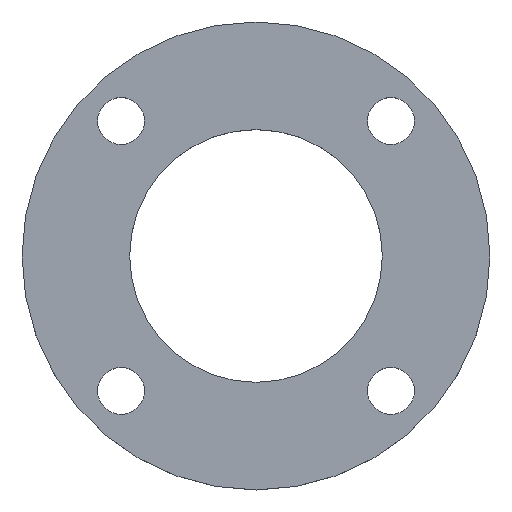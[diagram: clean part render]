
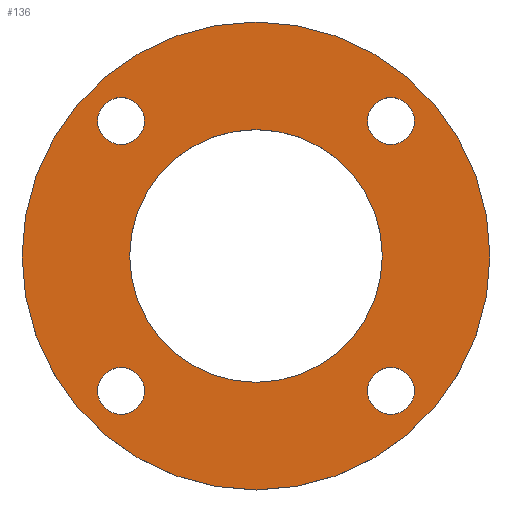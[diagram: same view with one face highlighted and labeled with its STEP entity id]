
A CAD part, top view. The second image highlights one B-rep face of the part: STEP entity #136.
In plain terms, the highlighted planar face has unit normal (0, 0, 1).
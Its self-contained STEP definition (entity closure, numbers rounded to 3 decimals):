
#14=PLANE($,#159);
#27=FACE_BOUND($,#57,.T.);
#28=FACE_BOUND($,#58,.T.);
#29=FACE_BOUND($,#59,.T.);
#30=FACE_BOUND($,#60,.T.);
#31=FACE_BOUND($,#61,.T.);
#32=FACE_BOUND($,#62,.T.);
#57=EDGE_LOOP($,(#117));
#58=EDGE_LOOP($,(#118));
#59=EDGE_LOOP($,(#119));
#60=EDGE_LOOP($,(#120));
#61=EDGE_LOOP($,(#121));
#62=EDGE_LOOP($,(#122));
#64=CIRCLE($,#142,9.5);
#66=CIRCLE($,#145,9.5);
#68=CIRCLE($,#148,9.5);
#70=CIRCLE($,#151,9.5);
#71=CIRCLE($,#153,51.3);
#73=CIRCLE($,#156,95.);
#76=VERTEX_POINT($,#206);
#78=VERTEX_POINT($,#211);
#80=VERTEX_POINT($,#216);
#82=VERTEX_POINT($,#221);
#83=VERTEX_POINT($,#224);
#85=VERTEX_POINT($,#229);
#88=EDGE_CURVE($,#76,#76,#64,.T.);
#90=EDGE_CURVE($,#78,#78,#66,.T.);
#92=EDGE_CURVE($,#80,#80,#68,.T.);
#94=EDGE_CURVE($,#82,#82,#70,.T.);
#95=EDGE_CURVE($,#83,#83,#71,.T.);
#97=EDGE_CURVE($,#85,#85,#73,.T.);
#117=ORIENTED_EDGE($,*,*,#88,.T.);
#118=ORIENTED_EDGE($,*,*,#90,.T.);
#119=ORIENTED_EDGE($,*,*,#92,.T.);
#120=ORIENTED_EDGE($,*,*,#94,.T.);
#121=ORIENTED_EDGE($,*,*,#95,.T.);
#122=ORIENTED_EDGE($,*,*,#97,.T.);
#136=ADVANCED_FACE($,(#27,#28,#29,#30,#31,#32),#14,.T.);
#142=AXIS2_PLACEMENT_3D($,#207,#166,#167);
#145=AXIS2_PLACEMENT_3D($,#212,#172,#173);
#148=AXIS2_PLACEMENT_3D($,#217,#178,#179);
#151=AXIS2_PLACEMENT_3D($,#222,#184,#185);
#153=AXIS2_PLACEMENT_3D($,#225,#188,#189);
#156=AXIS2_PLACEMENT_3D($,#230,#194,#195);
#159=AXIS2_PLACEMENT_3D($,#234,#200,#201);
#166=DIRECTION('center_axis',(0.,0.,-1.));
#167=DIRECTION('ref_axis',(0.,1.,0.));
#172=DIRECTION('center_axis',(0.,0.,-1.));
#173=DIRECTION('ref_axis',(1.,0.,0.));
#178=DIRECTION('center_axis',(0.,0.,-1.));
#179=DIRECTION('ref_axis',(0.,-1.,0.));
#184=DIRECTION('center_axis',(0.,0.,-1.));
#185=DIRECTION('ref_axis',(-1.,0.,0.));
#188=DIRECTION('center_axis',(0.,0.,-1.));
#189=DIRECTION('ref_axis',(-1.,0.,0.));
#194=DIRECTION('center_axis',(0.,0.,1.));
#195=DIRECTION('ref_axis',(-1.,0.,0.));
#200=DIRECTION('center_axis',(0.,0.,1.));
#201=DIRECTION('ref_axis',(1.,0.,0.));
#206=CARTESIAN_POINT('',(54.801,45.301,14.));
#207=CARTESIAN_POINT('Origin',(54.801,54.801,14.));
#211=CARTESIAN_POINT('',(45.301,-54.801,14.));
#212=CARTESIAN_POINT('Origin',(54.801,-54.801,14.));
#216=CARTESIAN_POINT('',(-54.801,-45.301,14.));
#217=CARTESIAN_POINT('Origin',(-54.801,-54.801,14.));
#221=CARTESIAN_POINT('',(-45.301,54.801,14.));
#222=CARTESIAN_POINT('Origin',(-54.801,54.801,14.));
#224=CARTESIAN_POINT('',(51.3,0.,14.));
#225=CARTESIAN_POINT('Origin',(0.,0.,14.));
#229=CARTESIAN_POINT('',(95.,0.,14.));
#230=CARTESIAN_POINT('Origin',(0.,0.,14.));
#234=CARTESIAN_POINT('Origin',(0.,0.,14.));
